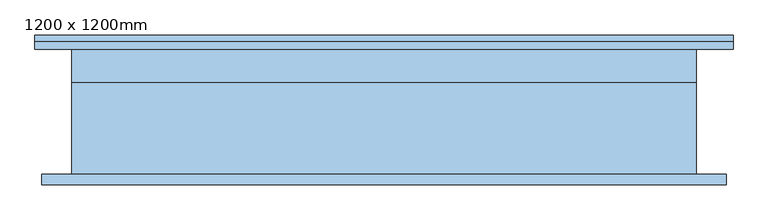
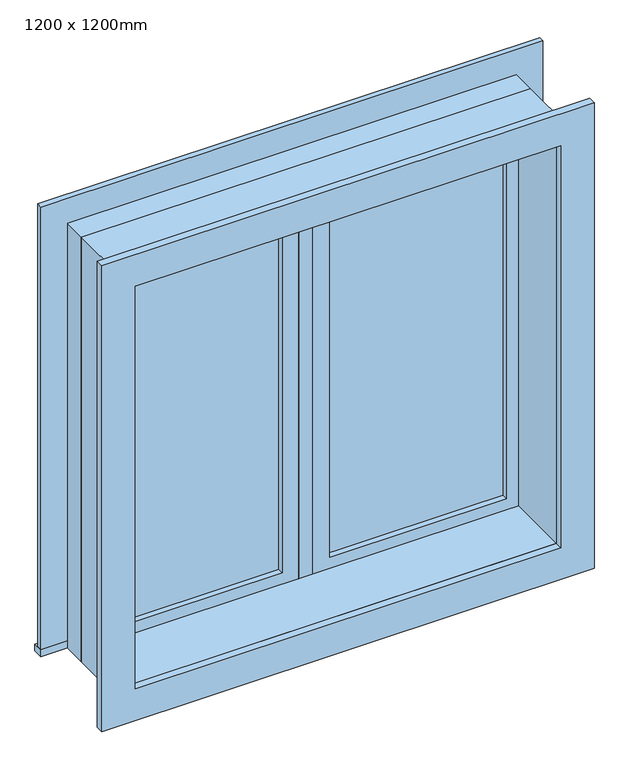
"""IFC4 building model written with IfcOpenShell, lengths in millimetres: window geometry, 双扇平开 - 带贴面 : 1200 x 1200mm."""

import ifcopenshell
import ifcopenshell.guid

model = None  # the IFC model being written
_history = None  # IfcOwnerHistory: only IFC2X3 demands one
_inside = {}  # id of a spatial element -> (the spatial element, [elements in it])
_under = {}  # id of a project, library or spatial element -> (it, [spatial elements below it])
_declared = {}  # id of a project -> (the project, [libraries it declares])
_typed = {}  # id of a type object -> (the type object, [elements of that type])
_made_of = {}  # id of a material, layer set ... -> (it, [elements and type objects made of it])


def new_model(schema):
    """Start an empty IFC model of exactly this schema.

    Asked for "IFC4X3", IfcOpenShell would pick the latest addendum, in which some entities
    have other attributes; the version numbers below select the first issue.
    IFC2X3 requires an IfcOwnerHistory on every rooted entity: one is made here for all.
    """
    global model, _history
    if schema == "IFC4X3":
        model = ifcopenshell.file(schema_version=(4, 3, 0, 0))
    else:
        model = ifcopenshell.file(schema=schema)
    _inside.clear()
    _under.clear()
    _declared.clear()
    _typed.clear()
    _made_of.clear()
    _history = None
    if model.schema == "IFC2X3":
        org = make("IfcOrganization", Name="unknown")
        user = make(
            "IfcPersonAndOrganization",
            ThePerson=make("IfcPerson", FamilyName="unknown"),
            TheOrganization=org,
        )
        app = make(
            "IfcApplication",
            ApplicationDeveloper=org,
            Version="unknown",
            ApplicationFullName="unknown",
            ApplicationIdentifier="unknown",
        )
        _history = make(
            "IfcOwnerHistory",
            OwningUser=user,
            OwningApplication=app,
            ChangeAction="ADDED",
            CreationDate=0,
        )
    return model


def make(cls, **values):
    """One entity of the class cls with the attributes given. An attribute that is None is left unset."""
    return model.create_entity(
        cls, **{name: value for name, value in values.items() if value is not None}
    )


def rooted(cls, **values):
    """An entity with a GlobalId (a new one), such as an element, a storey or a relation."""
    return make(cls, GlobalId=ifcopenshell.guid.new(), OwnerHistory=_history, **values)


def si_unit(unit_type, name, prefix=None):
    """IfcSIUnit, for example si_unit("LENGTHUNIT", "METRE", prefix="MILLI")."""
    return make("IfcSIUnit", UnitType=unit_type, Prefix=prefix, Name=name)


def assignment(units):
    """IfcUnitAssignment: the units of a project."""
    return None if units is None else make("IfcUnitAssignment", Units=units)


def point(xyz):
    """IfcCartesianPoint."""
    return None if xyz is None else make("IfcCartesianPoint", Coordinates=xyz)


def direction(xyz):
    """IfcDirection."""
    return None if xyz is None else make("IfcDirection", DirectionRatios=xyz)


def frame(location, z_axis=None, x_axis=None):
    """IfcAxis2Placement3D, a coordinate frame: its origin and axes. An axis left out is left unset."""
    return make(
        "IfcAxis2Placement3D",
        Location=point(location),
        Axis=direction(z_axis),
        RefDirection=direction(x_axis),
    )


def origin():
    """The frame at (0, 0, 0) with its axes left unset."""
    return frame((0.0, 0.0, 0.0))


def place(relative_to, where):
    """IfcLocalPlacement: puts the frame where relative to a parent placement (None: the world)."""
    return make(
        "IfcLocalPlacement", PlacementRelTo=relative_to, RelativePlacement=where
    )


def context(
    kind, dimensions, precision=None, world=None, true_north=None, identifier=None
):
    """IfcGeometricRepresentationContext, for example the 3D "Model" context."""
    return make(
        "IfcGeometricRepresentationContext",
        ContextIdentifier=identifier,
        ContextType=kind,
        CoordinateSpaceDimension=dimensions,
        Precision=precision,
        WorldCoordinateSystem=world,
        TrueNorth=true_north,
    )


def project(units=None, contexts=None):
    """IfcProject with its units and contexts."""
    return rooted(
        "IfcProject",
        Name="project",
        RepresentationContexts=contexts,
        UnitsInContext=assignment(units),
    )


def spatial(cls, under=None, at=None, **own):
    """A site, building, storey or space (cls), placed at a placement, below another one or the project."""
    s = rooted(cls, ObjectPlacement=at, **own)
    if under is not None:
        _under.setdefault(under.id(), (under, []))[1].append(s)
    return s


def polyline(points):
    """IfcPolyline through the points."""
    return make("IfcPolyline", Points=[point(p) for p in points])


def outline(outer, holes=None, kind="AREA"):
    """IfcArbitraryClosedProfileDef: a profile drawn as a closed curve; with holes, ...WithVoids."""
    if holes is None:
        return make("IfcArbitraryClosedProfileDef", ProfileType=kind, OuterCurve=outer)
    return make(
        "IfcArbitraryProfileDefWithVoids",
        ProfileType=kind,
        OuterCurve=outer,
        InnerCurves=holes,
    )


def extrude(swept, where, along, depth):
    """IfcExtrudedAreaSolid: the profile swept, set in the frame where, extruded along a direction by depth."""
    return make(
        "IfcExtrudedAreaSolid",
        SweptArea=swept,
        Position=where,
        ExtrudedDirection=direction(along),
        Depth=depth,
    )


def shape(context_of_items, identifier, shape_type, items):
    """IfcShapeRepresentation: the items that make up one representation, for example the "Body"."""
    return make(
        "IfcShapeRepresentation",
        ContextOfItems=context_of_items,
        RepresentationIdentifier=identifier,
        RepresentationType=shape_type,
        Items=items,
    )


def source(mapping_origin, context_of_items, identifier, shape_type, items):
    """IfcRepresentationMap: a shape defined once, which mapped items show again and again."""
    return make(
        "IfcRepresentationMap",
        MappingOrigin=mapping_origin,
        MappedRepresentation=shape(context_of_items, identifier, shape_type, items),
    )


def transform(
    local_origin,
    x_axis=None,
    y_axis=None,
    z_axis=None,
    scale=None,
    scale2=None,
    scale3=None,
    uniform=True,
):
    """IfcCartesianTransformationOperator3D, or its non-uniform kind. x_axis, y_axis, z_axis: its Axis1, 2, 3."""
    if uniform:
        return make(
            "IfcCartesianTransformationOperator3D",
            Axis1=direction(x_axis),
            Axis2=direction(y_axis),
            LocalOrigin=point(local_origin),
            Scale=scale,
            Axis3=direction(z_axis),
        )
    return make(
        "IfcCartesianTransformationOperator3DnonUniform",
        Axis1=direction(x_axis),
        Axis2=direction(y_axis),
        LocalOrigin=point(local_origin),
        Scale=scale,
        Axis3=direction(z_axis),
        Scale2=scale2,
        Scale3=scale3,
    )


def mapped(mapping_source, mapping_target):
    """IfcMappedItem: shows the shape of a source again, moved by a transform."""
    return make(
        "IfcMappedItem", MappingSource=mapping_source, MappingTarget=mapping_target
    )


def made_of(thing, what):
    """Note that an element or type object is made of a material, layer set ...; save() writes the relation."""
    if what is not None:
        _made_of.setdefault(what.id(), (what, []))[1].append(thing)
    return thing


def element(
    cls,
    number,
    at=None,
    inside=None,
    cuts=None,
    type_object=None,
    material=None,
    context=None,
    identifier="Body",
    shape_type=None,
    held_by="IfcProductDefinitionShape",
    body=None,
    shapes=None,
    **own,
):
    """One element of the class cls, such as IfcWall. Its Tag is "e" and its number.

    at: its placement. inside: the storey or other place that contains it. cuts: it is an
    opening in that element (IfcRelVoidsElement). A single representation is given by context,
    identifier, shape_type and body (its items); several are given by shapes. held_by: the class
    of the entity that holds the representations. save() writes the other relations.
    """
    e = rooted(cls, Tag="e%d" % number, ObjectPlacement=at, **own)
    if body is not None:
        shapes = [shape(context, identifier, shape_type, body)]
    if shapes is not None:
        e.Representation = make(held_by, Representations=shapes)
    if inside is not None:
        _inside.setdefault(inside.id(), (inside, []))[1].append(e)
    if cuts is not None:
        rooted(
            "IfcRelVoidsElement", RelatingBuildingElement=cuts, RelatedOpeningElement=e
        )
    if type_object is not None:
        _typed.setdefault(type_object.id(), (type_object, []))[1].append(e)
    return made_of(e, material)


def aggregate(whole, parts):
    """IfcRelAggregates: a whole, such as a stair, and the parts it consists of."""
    return rooted("IfcRelAggregates", RelatingObject=whole, RelatedObjects=parts)


def save(model, path):
    """Write the relations noted so far, then the file.

    IfcRelAggregates (storeys below a building ...), IfcRelContainedInSpatialStructure (elements
    in a storey), IfcRelDefinesByType, IfcRelAssociatesMaterial and IfcRelDeclares: one each for
    every whole, place, type object, material and project.
    """
    for whole, parts in _under.values():
        aggregate(whole, parts)
    for where, things in _inside.values():
        rooted(
            "IfcRelContainedInSpatialStructure",
            RelatedElements=things,
            RelatingStructure=where,
        )
    for kind, things in _typed.values():
        rooted("IfcRelDefinesByType", RelatedObjects=things, RelatingType=kind)
    for what, things in _made_of.values():
        rooted("IfcRelAssociatesMaterial", RelatedObjects=things, RelatingMaterial=what)
    for by, libraries in _declared.values():
        rooted("IfcRelDeclares", RelatingContext=by, RelatedDefinitions=libraries)
    model.write(path)


def window_1200_x_1200mm_5d869761(model_context):
    return source(origin(), model_context, "Body", "SweptSolid", [
        extrude(outline(polyline([(63.5, 84.125), (536.5, 84.125), (536.5, 71.425), (63.5, 71.425), (63.5, 84.125)])), frame((0.0, 0.0, 964.5), z_axis=(0.0, 0.0, 1.0), x_axis=(1.0, 0.0, 0.0)), (0.0, 0.0, 1.0), 1073.0),
        extrude(outline(polyline([(2081.95, 19.05), (920.05, 19.05), (920.05, 580.95), (2081.95, 580.95), (2081.95, 19.05)]), holes=[polyline([(2037.5, 63.5), (2037.5, 536.5), (964.5, 536.5), (964.5, 63.5), (2037.5, 63.5)])]), frame((0.0, 55.55, 0.0), z_axis=(0.0, 1.0, 0.0), x_axis=(0.0, 0.0, 1.0)), (0.0, 0.0, 1.0), 44.45),
        extrude(outline(polyline([(19.05, 55.55), (-19.05, 55.55), (-19.05, 119.05), (19.05, 119.05), (19.05, 55.55)])), frame((0.0, 0.0, 920.05), z_axis=(0.0, 0.0, 1.0), x_axis=(1.0, 0.0, 0.0)), (0.0, 0.0, 1.0), 1161.9),
        extrude(outline(polyline([(-63.5, 71.425), (-536.5, 71.425), (-536.5, 84.125), (-63.5, 84.125), (-63.5, 71.425)])), frame((0.0, 0.0, 964.5), z_axis=(0.0, 0.0, 1.0), x_axis=(1.0, 0.0, 0.0)), (0.0, 0.0, 1.0), 1073.0),
        extrude(outline(polyline([(2081.95, -580.95), (920.05, -580.95), (920.05, -19.05), (2081.95, -19.05), (2081.95, -580.95)]), holes=[polyline([(2037.5, -536.5), (2037.5, -63.5), (964.5, -63.5), (964.5, -536.5), (2037.5, -536.5)])]), frame((0.0, 55.55, 0.0), z_axis=(0.0, 1.0, 0.0), x_axis=(0.0, 0.0, 1.0)), (0.0, 0.0, 1.0), 44.45),
        extrude(outline(polyline([(2101.0, -600.0), (901.0, -600.0), (901.0, 600.0), (2101.0, 600.0), (2101.0, -600.0)]), holes=[polyline([(2069.25, -568.25), (2069.25, 568.25), (932.75, 568.25), (932.75, -568.25), (2069.25, -568.25)])]), frame((0.0, -120.0, 0.0), z_axis=(0.0, 1.0, 0.0), x_axis=(0.0, 0.0, 1.0)), (0.0, 0.0, 1.0), 175.55),
        extrude(outline(polyline([(2101.0, 600.0), (2101.0, -600.0), (901.0, -600.0), (901.0, 600.0), (2101.0, 600.0)]), holes=[polyline([(2081.95, 580.95), (920.05, 580.95), (920.05, -580.95), (2081.95, -580.95), (2081.95, 580.95)])]), frame((0.0, 55.55, 0.0), z_axis=(0.0, 1.0, 0.0), x_axis=(0.0, 0.0, 1.0)), (0.0, 0.0, 1.0), 64.45),
        extrude(outline(polyline([(-670.95, 147.7), (670.95, 147.7), (670.95, 120.0), (-670.95, 120.0), (-670.95, 147.7)])), frame((0.0, 0.0, 901.0), z_axis=(0.0, 0.0, 1.0), x_axis=(1.0, 0.0, 0.0)), (0.0, 0.0, 1.0), 19.05),
        extrude(outline(polyline([(2081.95, -580.95), (2081.95, 580.95), (920.05, 580.95), (920.05, 670.95), (2171.95, 670.95), (2171.95, -670.95), (920.05, -670.95), (920.05, -580.95), (2081.95, -580.95)])), frame((0.0, 120.0, 0.0), z_axis=(0.0, 1.0, 0.0), x_axis=(0.0, 0.0, 1.0)), (0.0, 0.0, 1.0), 15.0),
        extrude(outline(polyline([(2159.25, 658.25), (2159.25, -658.25), (842.75, -658.25), (842.75, 658.25), (2159.25, 658.25)]), holes=[polyline([(2069.25, 568.25), (932.75, 568.25), (932.75, -568.25), (2069.25, -568.25), (2069.25, 568.25)])]), frame((0.0, -140.0, 0.0), z_axis=(0.0, 1.0, 0.0), x_axis=(0.0, 0.0, 1.0)), (0.0, 0.0, 1.0), 20.0),
    ])


if __name__ == "__main__":
    model = new_model("IFC4")
    model_context = context("Model", 3, world=origin())
    ifc_project = project(units=[si_unit("LENGTHUNIT", "METRE", prefix="MILLI")], contexts=[model_context])
    site = spatial("IfcSite", under=ifc_project)
    building = spatial("IfcBuilding", under=site)
    placement = place(None, origin())
    window_1200_x_1200mm_shape = window_1200_x_1200mm_5d869761(model_context)
    element("IfcWindow", 1, ObjectType="双扇平开 - 带贴面 : 1200 x 1200mm", at=placement, inside=building, context=model_context, shape_type="MappedRepresentation", body=[
        mapped(window_1200_x_1200mm_shape, transform((0.0, 0.0, 0.0), x_axis=(1.0, 0.0, 0.0), y_axis=(0.0, 1.0, 0.0), z_axis=(0.0, 0.0, 1.0))),
    ])
    save(model, "model.ifc")
